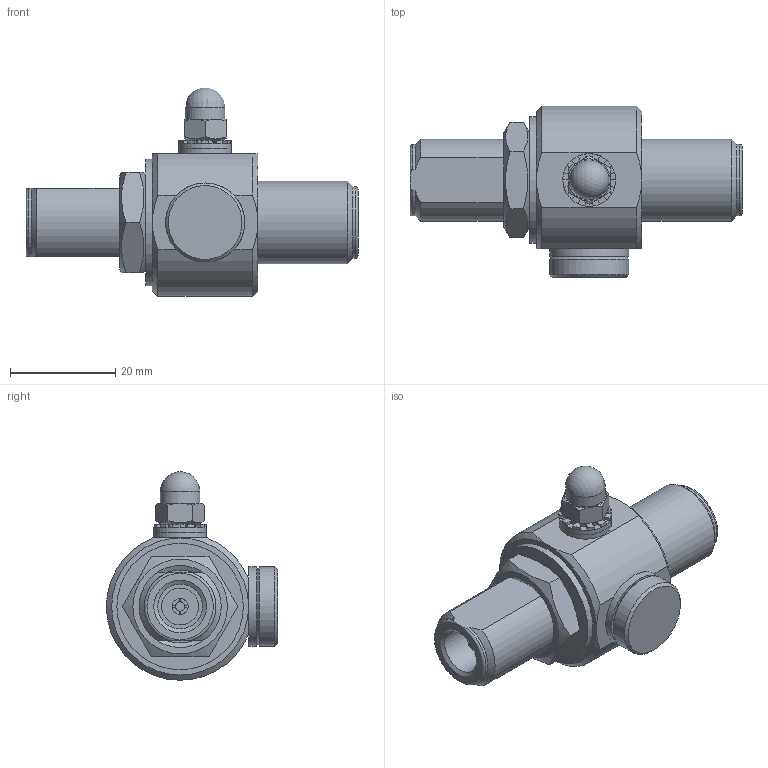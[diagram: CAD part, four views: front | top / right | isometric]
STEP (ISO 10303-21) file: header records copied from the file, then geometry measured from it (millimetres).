
FILE_DESCRIPTION(/* description */ (''),/* implementation_level */ '2;1');
FILE_NAME(/* name */ 'K:\PROJEKTY ROZPRACOVANÉ\MODELY DO KATALOGU\KO\3D - STEP\KO-GN (F_F).stp',/* time_stamp */ '2020-12-03T09:42:56+01:00',/* author */ ('M Koliska'),/* organization */ (''),/* preprocessor_version */ 'ST-DEVELOPER v18.1',/* originating_system */ 'Autodesk Inventor 2021',/* authorisation */ '');
FILE_SCHEMA (('AUTOMOTIVE_DESIGN { 1 0 10303 214 3 1 1 }'));
Length unit declared in the file: millimetre
Products named in the file (7): KO-3GN (F_F); KO-3GN (F_F)_1; DIN 1587 - M5; DIN 6798 - A  5,3; DIN 125 - A 5,3; MATICE KO; PODLOŽKA
Assembly tree (7 placements, depth 2):
  KO-3GN (F_F)
    KO-3GN (F_F)_1
    DIN 125 - A 5,3  x2
    DIN 1587 - M5
    DIN 6798 - A  5,3
    MATICE KO
    PODLOŽKA
Bounding box: 63 x 32.5 x 39.57 mm (x, y, z)
Volume: 20840.8 mm3; surface area: 8511.5 mm2
Topology: 7 solids, 7 shells, 198 faces, 497 edges, 322 vertices
Faces by surface type: plane 98, cylinder 73, cone 24, torus 2, sphere 1
Full cylindrical faces by diameter (mm): 1.8 x2, 3 x2, 4.134 x1, 5 x1, 5.3 x3, 7 x2, 7.5 x1, 8.5 x2, 10 x2, 13.6 x1, 13.835 x1, 15 x2, 15.6 x1, 18 x1, 24 x1
Entity records: 6193 total; most frequent: CARTESIAN_POINT 1146, DIRECTION 1061, ORIENTED_EDGE 972, EDGE_CURVE 486, AXIS2_PLACEMENT_3D 412, VERTEX_POINT 316, LINE 237, VECTOR 237
